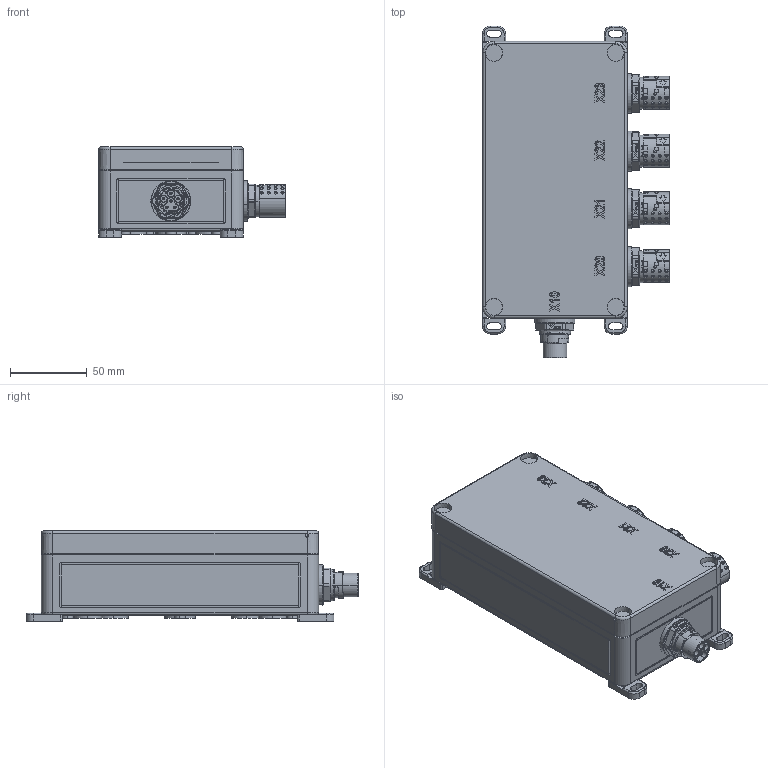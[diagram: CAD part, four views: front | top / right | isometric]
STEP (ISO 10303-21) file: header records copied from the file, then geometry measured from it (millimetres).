
FILE_DESCRIPTION (( 'STEP AP214' ), '1' );
FILE_NAME ('1145371-00000.STEP', '2020-08-05T12:19:16', ( '' ), ( '' ), 'SwSTEP 2.0', 'SolidWorks 2019', '' );
FILE_SCHEMA (( 'AUTOMOTIVE_DESIGN' ));
Length unit declared in the file: millimetre
Products named in the file (1): 1145371-00000
Bounding box: 121.43 x 215.6 x 58.7 mm (x, y, z)
Volume: 969185.5 mm3; surface area: 89790.6 mm2
Topology: 1 solids, 15 shells, 3920 faces, 10095 edges, 6560 vertices
Faces by surface type: plane 1771, bspline 1000, cylinder 966, torus 153, cone 28, sphere 2
Entity records: 195740 total; most frequent: CARTESIAN_POINT 103180, ORIENTED_EDGE 20118, DIRECTION 15067, EDGE_CURVE 10059, VERTEX_POINT 6560, AXIS2_PLACEMENT_3D 5105, LINE 4857, VECTOR 4857
